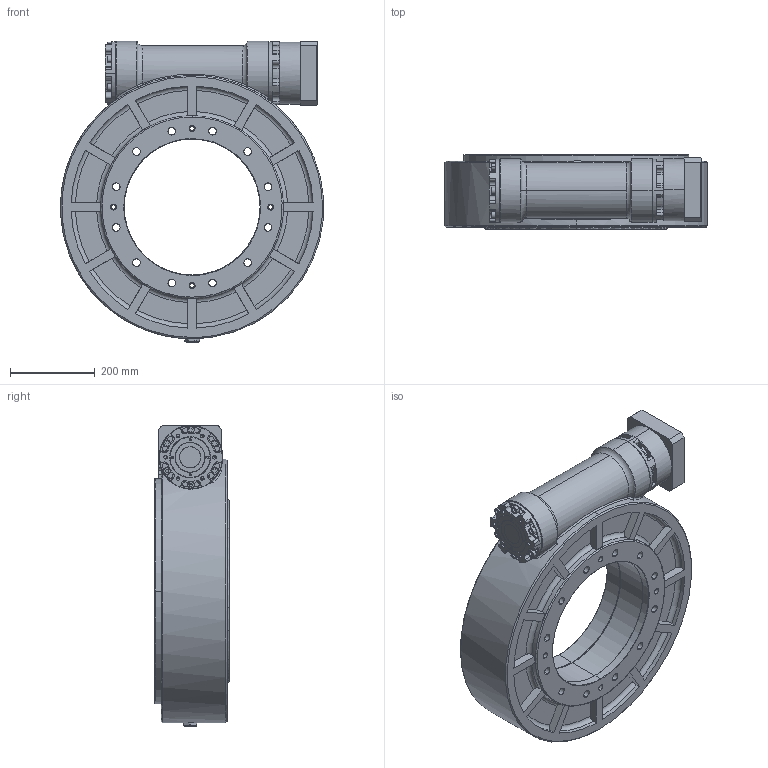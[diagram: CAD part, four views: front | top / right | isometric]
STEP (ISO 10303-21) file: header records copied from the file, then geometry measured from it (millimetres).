
FILE_DESCRIPTION (( 'STEP AP203' ), '1' );
FILE_NAME ('GH315-60R-40-130-165-M10.STEP', '2024-04-26T07:35:19', ( 'DIY-OS' ), ( 'ShuoYang' ), 'SwSTEP 2.0', 'SolidWorks 2018', '' );
FILE_SCHEMA (( 'CONFIG_CONTROL_DESIGN' ));
Products named in the file (1): GH315-60R-40-130-165-M10
Bounding box: 619.41 x 175 x 709 mm (x, y, z)
Surface area: 1757607.7 mm2 (no closed solid volume)
Topology: 0 solids, 23 shells, 663 faces, 2023 edges, 1366 vertices
Faces by surface type: cylinder 407, plane 161, cone 40, torus 33, bspline 22
Entity records: 46222 total; most frequent: CARTESIAN_POINT 32308, ORIENTED_EDGE 3552, EDGE_CURVE 2023, B_SPLINE_CURVE_WITH_KNOTS 1982, VERTEX_POINT 1366, DIRECTION 1284, EDGE_LOOP 829, FACE_OUTER_BOUND 663
